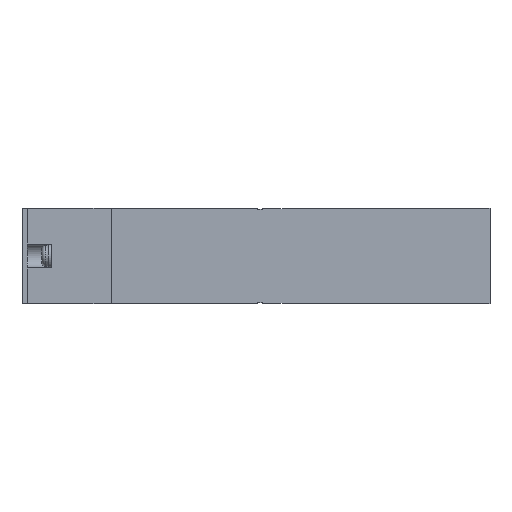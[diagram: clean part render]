
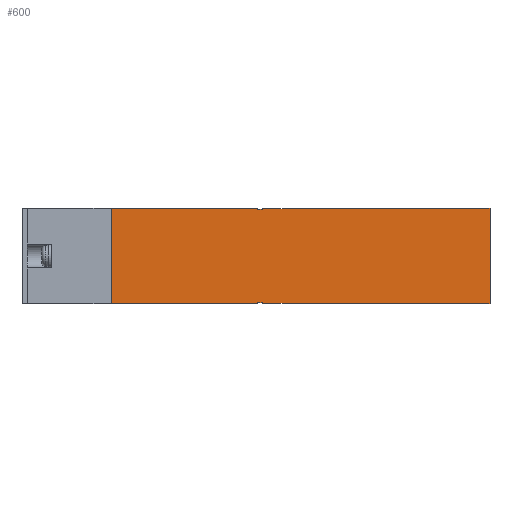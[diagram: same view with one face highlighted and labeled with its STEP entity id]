
A CAD part, front view. The second image highlights one B-rep face of the part: STEP entity #600.
In plain terms, the highlighted planar face has unit normal (0, -1, 0).
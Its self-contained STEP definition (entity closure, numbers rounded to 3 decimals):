
#600=ADVANCED_FACE('',(#1280),#1281,.F.);
#1280=FACE_OUTER_BOUND('',#2069,.T.);
#1281=PLANE('',#2070);
#2069=EDGE_LOOP('',(#4521,#4522,#4523,#4524,#4525,#4526,#4527,#4528,#4529,#4530,#4531,#4532,#4533,#4534,#4535,#4536,#4537,#4538,#4539,#4540,#4541,#4542,#4543,#4544));
#2070=AXIS2_PLACEMENT_3D('',#4545,#4546,#4547);
#4521=ORIENTED_EDGE('',*,*,#6034,.F.);
#4522=ORIENTED_EDGE('',*,*,#6011,.T.);
#4523=ORIENTED_EDGE('',*,*,#6035,.T.);
#4524=ORIENTED_EDGE('',*,*,#6036,.F.);
#4525=ORIENTED_EDGE('',*,*,#6037,.F.);
#4526=ORIENTED_EDGE('',*,*,#6038,.T.);
#4527=ORIENTED_EDGE('',*,*,#6039,.F.);
#4528=ORIENTED_EDGE('',*,*,#6040,.T.);
#4529=ORIENTED_EDGE('',*,*,#6041,.F.);
#4530=ORIENTED_EDGE('',*,*,#6018,.T.);
#4531=ORIENTED_EDGE('',*,*,#6042,.T.);
#4532=ORIENTED_EDGE('',*,*,#5903,.T.);
#4533=ORIENTED_EDGE('',*,*,#6043,.T.);
#4534=ORIENTED_EDGE('',*,*,#6044,.F.);
#4535=ORIENTED_EDGE('',*,*,#6045,.T.);
#4536=ORIENTED_EDGE('',*,*,#6046,.F.);
#4537=ORIENTED_EDGE('',*,*,#6047,.T.);
#4538=ORIENTED_EDGE('',*,*,#6007,.T.);
#4539=ORIENTED_EDGE('',*,*,#6048,.T.);
#4540=ORIENTED_EDGE('',*,*,#5966,.T.);
#4541=ORIENTED_EDGE('',*,*,#5943,.T.);
#4542=ORIENTED_EDGE('',*,*,#6049,.F.);
#4543=ORIENTED_EDGE('',*,*,#5953,.F.);
#4544=ORIENTED_EDGE('',*,*,#6025,.F.);
#4545=CARTESIAN_POINT('',(18.6,0.0,10.0));
#4546=DIRECTION('',(-0.0,1.0,0.0));
#4547=DIRECTION('',(1.0,0.0,0.0));
#5903=EDGE_CURVE('',#7297,#7295,#7298,.T.);
#5943=EDGE_CURVE('',#7362,#7372,#7374,.T.);
#5953=EDGE_CURVE('',#7391,#7393,#7394,.T.);
#5966=EDGE_CURVE('',#7416,#7362,#7417,.T.);
#6007=EDGE_CURVE('',#7483,#7481,#7484,.T.);
#6011=EDGE_CURVE('',#7479,#7489,#7491,.T.);
#6018=EDGE_CURVE('',#7504,#7502,#7505,.T.);
#6025=EDGE_CURVE('',#7512,#7391,#7514,.T.);
#6034=EDGE_CURVE('',#7479,#7512,#7529,.T.);
#6035=EDGE_CURVE('',#7489,#7530,#7531,.T.);
#6036=EDGE_CURVE('',#7532,#7530,#7533,.T.);
#6037=EDGE_CURVE('',#7534,#7532,#7535,.T.);
#6038=EDGE_CURVE('',#7534,#7536,#7537,.T.);
#6039=EDGE_CURVE('',#7538,#7536,#7539,.T.);
#6040=EDGE_CURVE('',#7538,#7540,#7541,.T.);
#6041=EDGE_CURVE('',#7504,#7540,#7542,.T.);
#6042=EDGE_CURVE('',#7502,#7297,#7543,.T.);
#6043=EDGE_CURVE('',#7295,#7544,#7545,.T.);
#6044=EDGE_CURVE('',#7546,#7544,#7547,.T.);
#6045=EDGE_CURVE('',#7546,#7548,#7549,.T.);
#6046=EDGE_CURVE('',#7550,#7548,#7551,.T.);
#6047=EDGE_CURVE('',#7550,#7483,#7552,.T.);
#6048=EDGE_CURVE('',#7481,#7416,#7553,.T.);
#6049=EDGE_CURVE('',#7393,#7372,#7554,.T.);
#7295=VERTEX_POINT('',#9536);
#7297=VERTEX_POINT('',#9539);
#7298=LINE('',#9540,#9541);
#7362=VERTEX_POINT('',#9634);
#7372=VERTEX_POINT('',#9649);
#7374=LINE('',#9652,#9653);
#7391=VERTEX_POINT('',#9674);
#7393=VERTEX_POINT('',#9677);
#7394=LINE('',#9678,#9679);
#7416=VERTEX_POINT('',#9712);
#7417=LINE('',#9713,#9714);
#7479=VERTEX_POINT('',#9810);
#7481=VERTEX_POINT('',#9813);
#7483=VERTEX_POINT('',#9816);
#7484=LINE('',#9817,#9818);
#7489=VERTEX_POINT('',#9825);
#7491=LINE('',#9828,#9829);
#7502=VERTEX_POINT('',#9845);
#7504=VERTEX_POINT('',#9848);
#7505=LINE('',#9849,#9850);
#7512=VERTEX_POINT('',#9862);
#7514=LINE('',#9865,#9866);
#7529=LINE('',#9888,#9889);
#7530=VERTEX_POINT('',#9890);
#7531=LINE('',#9891,#9892);
#7532=VERTEX_POINT('',#9893);
#7533=LINE('',#9894,#9895);
#7534=VERTEX_POINT('',#9896);
#7535=LINE('',#9897,#9898);
#7536=VERTEX_POINT('',#9899);
#7537=LINE('',#9900,#9901);
#7538=VERTEX_POINT('',#9902);
#7539=LINE('',#9903,#9904);
#7540=VERTEX_POINT('',#9905);
#7541=LINE('',#9906,#9907);
#7542=LINE('',#9908,#9909);
#7543=LINE('',#9910,#9911);
#7544=VERTEX_POINT('',#9912);
#7545=LINE('',#9913,#9914);
#7546=VERTEX_POINT('',#9915);
#7547=LINE('',#9916,#9917);
#7548=VERTEX_POINT('',#9918);
#7549=LINE('',#9919,#9920);
#7550=VERTEX_POINT('',#9921);
#7551=LINE('',#9922,#9923);
#7552=LINE('',#9924,#9925);
#7553=LINE('',#9926,#9927);
#7554=LINE('',#9928,#9929);
#9536=CARTESIAN_POINT('',(35.1,0.0,-10.0));
#9539=CARTESIAN_POINT('',(35.1,0.0,-9.9));
#9540=CARTESIAN_POINT('',(35.1,0.0,-9.9));
#9541=VECTOR('',#11134,1.0);
#9634=CARTESIAN_POINT('',(55.1,0.0,-10.0));
#9649=CARTESIAN_POINT('',(97.6,0.0,-10.0));
#9652=CARTESIAN_POINT('',(18.6,0.0,-10.0));
#9653=VECTOR('',#11182,1.0);
#9674=CARTESIAN_POINT('',(55.1,0.0,10.0));
#9677=CARTESIAN_POINT('',(97.6,0.0,10.0));
#9678=CARTESIAN_POINT('',(18.6,0.0,10.0));
#9679=VECTOR('',#11200,1.0);
#9712=CARTESIAN_POINT('',(55.1,0.0,-9.9));
#9713=CARTESIAN_POINT('',(55.1,0.0,-9.9));
#9714=VECTOR('',#11215,1.0);
#9810=CARTESIAN_POINT('',(50.1,0.0,9.9));
#9813=CARTESIAN_POINT('',(50.1,0.0,-9.9));
#9816=CARTESIAN_POINT('',(50.1,0.0,-9.8));
#9817=CARTESIAN_POINT('',(50.1,0.0,10.0));
#9818=VECTOR('',#11264,1.0);
#9825=CARTESIAN_POINT('',(50.1,0.0,9.8));
#9828=CARTESIAN_POINT('',(50.1,0.0,10.0));
#9829=VECTOR('',#11268,1.0);
#9845=CARTESIAN_POINT('',(18.6,0.0,-9.9));
#9848=CARTESIAN_POINT('',(18.6,0.0,9.9));
#9849=CARTESIAN_POINT('',(18.6,0.0,10.0));
#9850=VECTOR('',#11275,1.0);
#9862=CARTESIAN_POINT('',(55.1,0.0,9.9));
#9865=CARTESIAN_POINT('',(55.1,0.0,9.9));
#9866=VECTOR('',#11282,1.0);
#9888=CARTESIAN_POINT('',(44.1,0.0,9.9));
#9889=VECTOR('',#11293,1.0);
#9890=CARTESIAN_POINT('',(49.1,0.0,9.8));
#9891=CARTESIAN_POINT('',(18.6,0.0,9.8));
#9892=VECTOR('',#11294,1.0);
#9893=CARTESIAN_POINT('',(49.1,0.0,9.9));
#9894=CARTESIAN_POINT('',(49.1,0.0,10.0));
#9895=VECTOR('',#11295,1.0);
#9896=CARTESIAN_POINT('',(44.1,0.0,9.9));
#9897=CARTESIAN_POINT('',(44.1,0.0,9.9));
#9898=VECTOR('',#11296,1.0);
#9899=CARTESIAN_POINT('',(44.1,0.0,10.0));
#9900=CARTESIAN_POINT('',(44.1,0.0,9.9));
#9901=VECTOR('',#11297,1.0);
#9902=CARTESIAN_POINT('',(35.1,0.0,10.0));
#9903=CARTESIAN_POINT('',(18.6,0.0,10.0));
#9904=VECTOR('',#11298,1.0);
#9905=CARTESIAN_POINT('',(35.1,0.0,9.9));
#9906=CARTESIAN_POINT('',(35.1,0.0,10.1));
#9907=VECTOR('',#11299,1.0);
#9908=CARTESIAN_POINT('',(18.6,0.0,9.9));
#9909=VECTOR('',#11300,1.0);
#9910=CARTESIAN_POINT('',(18.6,0.0,-9.9));
#9911=VECTOR('',#11301,1.0);
#9912=CARTESIAN_POINT('',(44.1,0.0,-10.0));
#9913=CARTESIAN_POINT('',(18.6,0.0,-10.0));
#9914=VECTOR('',#11302,1.0);
#9915=CARTESIAN_POINT('',(44.1,0.0,-9.9));
#9916=CARTESIAN_POINT('',(44.1,0.0,-9.9));
#9917=VECTOR('',#11303,1.0);
#9918=CARTESIAN_POINT('',(49.1,0.0,-9.9));
#9919=CARTESIAN_POINT('',(44.1,0.0,-9.9));
#9920=VECTOR('',#11304,1.0);
#9921=CARTESIAN_POINT('',(49.1,0.0,-9.8));
#9922=CARTESIAN_POINT('',(49.1,0.0,10.0));
#9923=VECTOR('',#11305,1.0);
#9924=CARTESIAN_POINT('',(18.6,0.0,-9.8));
#9925=VECTOR('',#11306,1.0);
#9926=CARTESIAN_POINT('',(44.1,0.0,-9.9));
#9927=VECTOR('',#11307,1.0);
#9928=CARTESIAN_POINT('',(97.6,0.0,10.0));
#9929=VECTOR('',#11308,1.0);
#11134=DIRECTION('',(0.0,0.0,-1.0));
#11182=DIRECTION('',(1.0,0.0,0.0));
#11200=DIRECTION('',(1.0,0.0,0.0));
#11215=DIRECTION('',(0.0,0.0,-1.0));
#11264=DIRECTION('',(0.0,0.0,-1.0));
#11268=DIRECTION('',(0.0,0.0,-1.0));
#11275=DIRECTION('',(0.0,0.0,-1.0));
#11282=DIRECTION('',(0.0,0.0,1.0));
#11293=DIRECTION('',(1.0,0.0,0.0));
#11294=DIRECTION('',(-1.0,0.0,0.0));
#11295=DIRECTION('',(0.0,0.0,-1.0));
#11296=DIRECTION('',(1.0,0.0,0.0));
#11297=DIRECTION('',(0.0,0.0,1.0));
#11298=DIRECTION('',(1.0,0.0,0.0));
#11299=DIRECTION('',(0.0,0.0,-1.0));
#11300=DIRECTION('',(1.0,0.0,0.0));
#11301=DIRECTION('',(1.0,0.0,0.0));
#11302=DIRECTION('',(1.0,0.0,0.0));
#11303=DIRECTION('',(0.0,0.0,-1.0));
#11304=DIRECTION('',(1.0,0.0,0.0));
#11305=DIRECTION('',(0.0,0.0,-1.0));
#11306=DIRECTION('',(1.0,0.0,0.0));
#11307=DIRECTION('',(1.0,0.0,0.0));
#11308=DIRECTION('',(0.0,0.0,-1.0));
